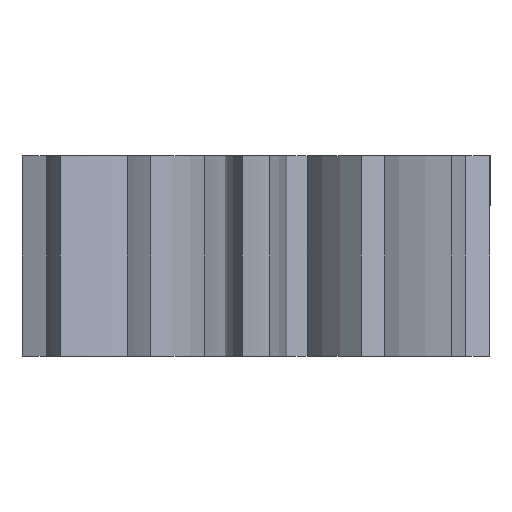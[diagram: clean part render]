
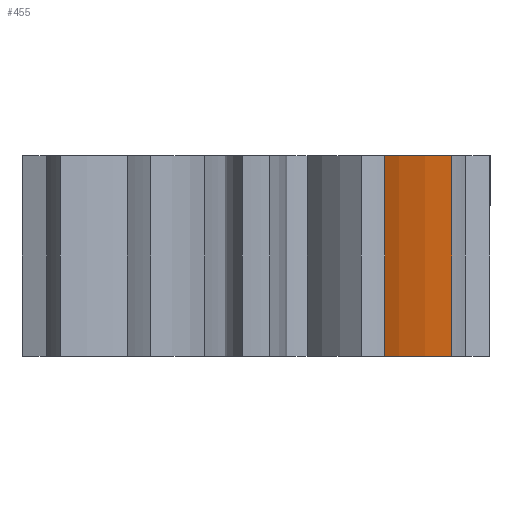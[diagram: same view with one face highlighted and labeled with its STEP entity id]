
A CAD part, front view. The second image highlights one B-rep face of the part: STEP entity #455.
In plain terms, the highlighted cylindrical face has radius 4.044 mm (diameter 8.087 mm), a partial arc.
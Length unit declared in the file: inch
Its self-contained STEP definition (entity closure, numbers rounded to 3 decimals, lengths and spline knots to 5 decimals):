
#414=CARTESIAN_POINT('',(0.19352,0.03863,0.0));
#415=DIRECTION('',(0.0,0.0,-1.0));
#416=DIRECTION('',(-0.515,-0.857,0.0));
#417=AXIS2_PLACEMENT_3D('',#414,#415,#416);
#418=CYLINDRICAL_SURFACE('',#417,0.1592);
#419=CARTESIAN_POINT('',(0.11161,-0.09788,-0.1875));
#420=VERTEX_POINT('',#419);
#421=CARTESIAN_POINT('',(0.18276,-0.12021,-0.1875));
#422=VERTEX_POINT('',#421);
#423=CARTESIAN_POINT('',(0.19352,0.03863,-0.1875));
#424=DIRECTION('',(0.0,0.0,1.));
#425=DIRECTION('',(-0.515,-0.857,0.0));
#426=AXIS2_PLACEMENT_3D('',#423,#424,#425);
#427=CIRCLE('',#426,0.1592);
#428=EDGE_CURVE('',#420,#422,#427,.T.);
#429=ORIENTED_EDGE('',*,*,#428,.T.);
#430=CARTESIAN_POINT('',(0.18276,-0.12021,0.0));
#431=VERTEX_POINT('',#430);
#432=CARTESIAN_POINT('',(0.18276,-0.12021,0.0));
#433=DIRECTION('',(0.0,0.0,-1.0));
#434=VECTOR('',#433,0.1875);
#435=LINE('',#432,#434);
#436=EDGE_CURVE('',#431,#422,#435,.T.);
#437=ORIENTED_EDGE('',*,*,#436,.F.);
#438=CARTESIAN_POINT('',(0.11161,-0.09788,0.0));
#439=VERTEX_POINT('',#438);
#440=CARTESIAN_POINT('',(0.19352,0.03863,0.0));
#441=DIRECTION('',(0.0,0.0,1.));
#442=DIRECTION('',(-0.515,-0.857,0.0));
#443=AXIS2_PLACEMENT_3D('',#440,#441,#442);
#444=CIRCLE('',#443,0.1592);
#445=EDGE_CURVE('',#439,#431,#444,.T.);
#446=ORIENTED_EDGE('',*,*,#445,.F.);
#447=CARTESIAN_POINT('',(0.11161,-0.09788,-0.1875));
#448=DIRECTION('',(0.0,0.0,1.0));
#449=VECTOR('',#448,0.1875);
#450=LINE('',#447,#449);
#451=EDGE_CURVE('',#420,#439,#450,.T.);
#452=ORIENTED_EDGE('',*,*,#451,.F.);
#453=EDGE_LOOP('',(#429,#437,#446,#452));
#454=FACE_OUTER_BOUND('',#453,.T.);
#455=ADVANCED_FACE('',(#454),#418,.T.);
